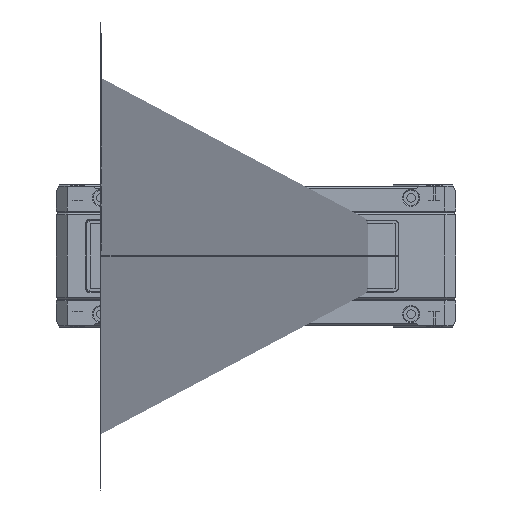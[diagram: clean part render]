
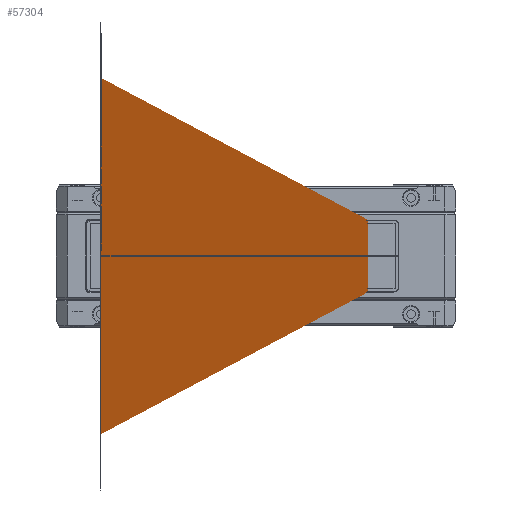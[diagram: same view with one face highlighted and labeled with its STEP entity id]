
A CAD part, front view. The second image highlights one B-rep face of the part: STEP entity #57304.
In plain terms, the highlighted planar face has unit normal (0.964, -0.268, 0).
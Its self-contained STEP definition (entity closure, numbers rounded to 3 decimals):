
#753 = EDGE_CURVE ( 'NONE', #17424, #30947, #47150, .T. ) ;
#5404 = VERTEX_POINT ( 'NONE', #9995 ) ;
#7665 = DIRECTION ( 'NONE',  ( 0.268, 0.964, 0. ) ) ;
#8100 = VECTOR ( 'NONE', #60793, 1000. ) ;
#9178 = ORIENTED_EDGE ( 'NONE', *, *, #49158, .F. ) ;
#9995 = CARTESIAN_POINT ( 'NONE',  ( 31.5, 0., -10.1 ) ) ;
#10549 = EDGE_CURVE ( 'NONE', #30947, #5404, #39061, .T. ) ;
#17028 = CARTESIAN_POINT ( 'NONE',  ( -43.5, -270., 50. ) ) ;
#17424 = VERTEX_POINT ( 'NONE', #17028 ) ;
#24274 = ORIENTED_EDGE ( 'NONE', *, *, #753, .F. ) ;
#26503 = ORIENTED_EDGE ( 'NONE', *, *, #10549, .F. ) ;
#26670 = CARTESIAN_POINT ( 'NONE',  ( -43.5, -270., -50. ) ) ;
#30272 = VECTOR ( 'NONE', #76439, 1000. ) ;
#30947 = VERTEX_POINT ( 'NONE', #91588 ) ;
#32244 = CARTESIAN_POINT ( 'NONE',  ( 31.5, 0., 10.1 ) ) ;
#34761 = PLANE ( 'NONE',  #75390 ) ;
#39061 = LINE ( 'NONE', #67607, #71492 ) ;
#40904 = DIRECTION ( 'NONE',  ( 0., 0., -1. ) ) ;
#42269 = LINE ( 'NONE', #70821, #30272 ) ;
#42716 = VECTOR ( 'NONE', #43931, 1000. ) ;
#43137 = CARTESIAN_POINT ( 'NONE',  ( 29.244, -8.123, 0. ) ) ;
#43931 = DIRECTION ( 'NONE',  ( 0., 0., 1. ) ) ;
#47150 = LINE ( 'NONE', #32244, #8100 ) ;
#49158 = EDGE_CURVE ( 'NONE', #5404, #68361, #42269, .T. ) ;
#49686 = FACE_OUTER_BOUND ( 'NONE', #81108, .T. ) ;
#57304 = ADVANCED_FACE ( 'NONE', ( #49686 ), #34761, .T. ) ;
#58010 = LINE ( 'NONE', #86573, #42716 ) ;
#60793 = DIRECTION ( 'NONE',  ( 0.265, 0.954, -0.141 ) ) ;
#63323 = DIRECTION ( 'NONE',  ( 0.964, -0.268, 0. ) ) ;
#65261 = EDGE_CURVE ( 'NONE', #68361, #17424, #58010, .T. ) ;
#67607 = CARTESIAN_POINT ( 'NONE',  ( 31.5, 0., -10.1 ) ) ;
#68361 = VERTEX_POINT ( 'NONE', #26670 ) ;
#70821 = CARTESIAN_POINT ( 'NONE',  ( -43.5, -270., -50. ) ) ;
#71492 = VECTOR ( 'NONE', #40904, 1000. ) ;
#75390 = AXIS2_PLACEMENT_3D ( 'NONE', #43137, #63323, #7665 ) ;
#76439 = DIRECTION ( 'NONE',  ( -0.265, -0.954, -0.141 ) ) ;
#81108 = EDGE_LOOP ( 'NONE', ( #91671, #9178, #26503, #24274 ) ) ;
#86573 = CARTESIAN_POINT ( 'NONE',  ( -43.5, -270., 50. ) ) ;
#91588 = CARTESIAN_POINT ( 'NONE',  ( 31.5, 0., 10.1 ) ) ;
#91671 = ORIENTED_EDGE ( 'NONE', *, *, #65261, .F. ) ;
